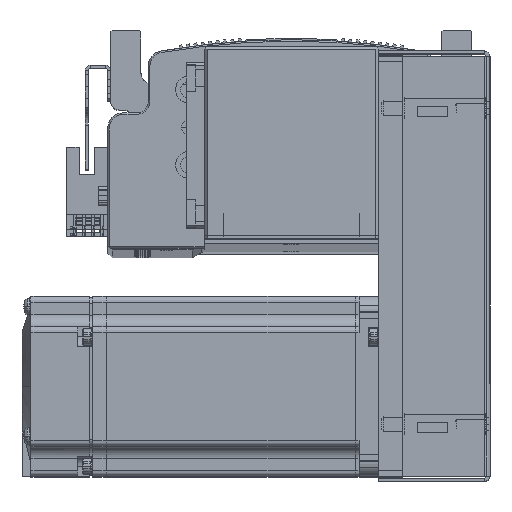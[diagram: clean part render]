
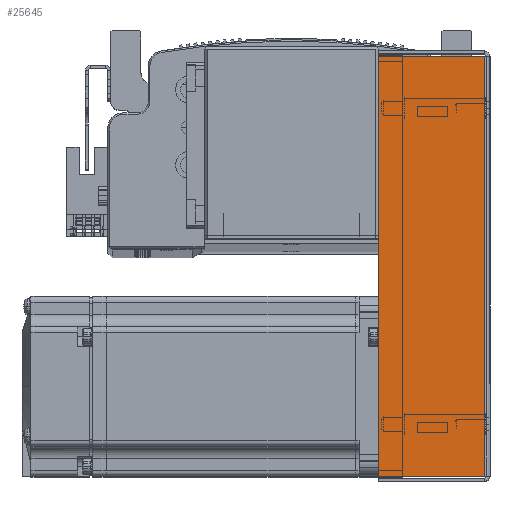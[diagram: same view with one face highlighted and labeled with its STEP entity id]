
A CAD part, top view. The second image highlights one B-rep face of the part: STEP entity #25645.
In plain terms, the highlighted planar face has unit normal (0, 0, 1).
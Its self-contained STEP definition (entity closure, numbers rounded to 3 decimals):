
#1649 = VECTOR ( 'NONE', #65762, 1000. ) ;
#1650 = LINE ( 'NONE', #65785, #1649 ) ;
#1664 = VECTOR ( 'NONE', #65743, 1000. ) ;
#1669 = VECTOR ( 'NONE', #65784, 1000. ) ;
#1679 = LINE ( 'NONE', #65805, #1669 ) ;
#1683 = LINE ( 'NONE', #65761, #1664 ) ;
#1705 = VECTOR ( 'NONE', #64046, 1000. ) ;
#1706 = LINE ( 'NONE', #64040, #1705 ) ;
#5723 = EDGE_CURVE ( 'NONE', #70556, #70545, #1683, .T. ) ;
#5736 = EDGE_CURVE ( 'NONE', #70556, #70537, #1650, .T. ) ;
#5737 = EDGE_CURVE ( 'NONE', #70537, #70476, #1679, .T. ) ;
#5750 = EDGE_CURVE ( 'NONE', #70545, #70476, #1706, .T. ) ;
#11935 = AXIS2_PLACEMENT_3D ( 'NONE', #49845, #49931, #49989 ) ;
#25645 = ADVANCED_FACE ( 'NONE', ( #50228 ), #49843, .F. ) ;
#37423 = ORIENTED_EDGE ( 'NONE', *, *, #5736, .F. ) ;
#37441 = ORIENTED_EDGE ( 'NONE', *, *, #5750, .T. ) ;
#37442 = ORIENTED_EDGE ( 'NONE', *, *, #5737, .F. ) ;
#37445 = ORIENTED_EDGE ( 'NONE', *, *, #5723, .T. ) ;
#45759 = CARTESIAN_POINT ( 'NONE',  ( 69.793, 0.737, 33.5 ) ) ;
#45773 = CARTESIAN_POINT ( 'NONE',  ( -69.793, 0.737, 33.5 ) ) ;
#45811 = CARTESIAN_POINT ( 'NONE',  ( 69.793, 36., 33.5 ) ) ;
#45841 = CARTESIAN_POINT ( 'NONE',  ( -69.793, 36., 33.5 ) ) ;
#49843 = PLANE ( 'NONE',  #11935 ) ;
#49845 = CARTESIAN_POINT ( 'NONE',  ( 0., 0., 33.5 ) ) ;
#49931 = DIRECTION ( 'NONE',  ( 0., 0., -1. ) ) ;
#49989 = DIRECTION ( 'NONE',  ( -1., 0., 0. ) ) ;
#50228 = FACE_OUTER_BOUND ( 'NONE', #60326, .T. ) ;
#60326 = EDGE_LOOP ( 'NONE', ( #37423, #37445, #37441, #37442 ) ) ;
#64040 = CARTESIAN_POINT ( 'NONE',  ( 0., 36., 33.5 ) ) ;
#64046 = DIRECTION ( 'NONE',  ( -1., 0., 0. ) ) ;
#65743 = DIRECTION ( 'NONE',  ( 0., 1., 0. ) ) ;
#65761 = CARTESIAN_POINT ( 'NONE',  ( 69.793, 0., 33.5 ) ) ;
#65762 = DIRECTION ( 'NONE',  ( -1., 0., 0. ) ) ;
#65784 = DIRECTION ( 'NONE',  ( 0., 1., 0. ) ) ;
#65785 = CARTESIAN_POINT ( 'NONE',  ( -71.5, 0.737, 33.5 ) ) ;
#65805 = CARTESIAN_POINT ( 'NONE',  ( -69.793, 0., 33.5 ) ) ;
#70476 = VERTEX_POINT ( 'NONE', #45841 ) ;
#70537 = VERTEX_POINT ( 'NONE', #45773 ) ;
#70545 = VERTEX_POINT ( 'NONE', #45811 ) ;
#70556 = VERTEX_POINT ( 'NONE', #45759 ) ;
